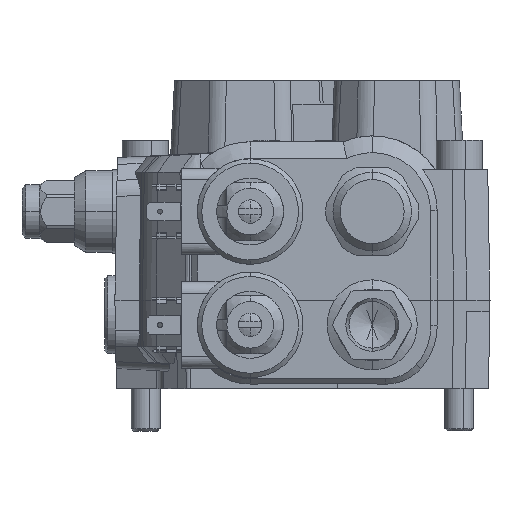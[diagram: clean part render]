
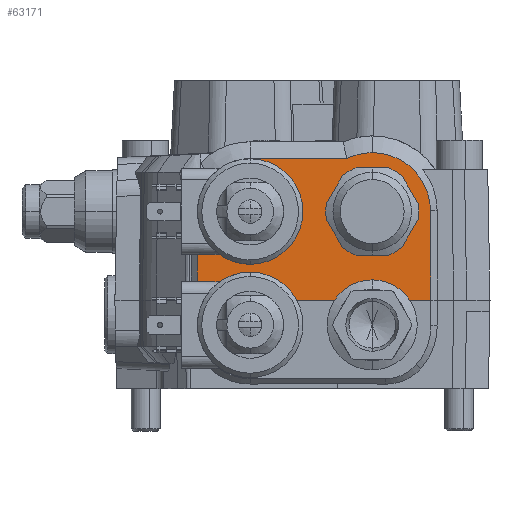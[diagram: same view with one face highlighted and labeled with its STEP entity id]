
A CAD part, left-side view. The second image highlights one B-rep face of the part: STEP entity #63171.
In plain terms, the highlighted planar face has unit normal (-1, 0, 0.012).
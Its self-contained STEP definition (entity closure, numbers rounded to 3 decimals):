
#832 =( BOUNDED_CURVE ( )  B_SPLINE_CURVE ( 3, ( #36646, #5900, #76017, #68797 ),
 .UNSPECIFIED., .F., .F. ) 
 B_SPLINE_CURVE_WITH_KNOTS ( ( 4, 4 ),
 ( 0., 1.566 ),
 .UNSPECIFIED. ) 
 CURVE ( )  GEOMETRIC_REPRESENTATION_ITEM ( )  RATIONAL_B_SPLINE_CURVE ( ( 1., 0.806, 0.806, 1. ) ) 
 REPRESENTATION_ITEM ( '' )  );
#2744 = VERTEX_POINT ( 'NONE', #54955 ) ;
#4393 = CARTESIAN_POINT ( 'NONE',  ( -70.48, -12., 50.77 ) ) ;
#4930 = EDGE_CURVE ( 'NONE', #2744, #98754, #58706, .T. ) ;
#5900 = CARTESIAN_POINT ( 'NONE',  ( -70.48, -23.681, 50.77 ) ) ;
#7169 = EDGE_CURVE ( 'NONE', #36740, #50624, #42367, .T. ) ;
#7854 = EDGE_CURVE ( 'NONE', #59520, #57468, #832, .T. ) ;
#10724 = DIRECTION ( 'NONE',  ( 0., -1., 0. ) ) ;
#11211 = EDGE_CURVE ( 'NONE', #36740, #69262, #83949, .T. ) ;
#17808 = DIRECTION ( 'NONE',  ( 0.012, -0.005, 1. ) ) ;
#19142 = DIRECTION ( 'NONE',  ( -0.012, -0.005, -1. ) ) ;
#20038 = CARTESIAN_POINT ( 'NONE',  ( -70.504, 0., 48.746 ) ) ;
#20102 = DIRECTION ( 'NONE',  ( 0.012, 0., 1. ) ) ;
#20921 = VECTOR ( 'NONE', #10724, 1000. ) ;
#26667 = CARTESIAN_POINT ( 'NONE',  ( -70.504, 30., 48.746 ) ) ;
#29568 = ORIENTED_EDGE ( 'NONE', *, *, #60174, .F. ) ;
#34330 = CARTESIAN_POINT ( 'NONE',  ( -70.595, 47.969, 41.33 ) ) ;
#36646 = CARTESIAN_POINT ( 'NONE',  ( -70.48, -12., 50.77 ) ) ;
#36740 = VERTEX_POINT ( 'NONE', #78906 ) ;
#41028 = CARTESIAN_POINT ( 'NONE',  ( -70.724, 48.024, 30.815 ) ) ;
#41268 = CARTESIAN_POINT ( 'NONE',  ( -70.724, 48.024, 30.815 ) ) ;
#42367 = LINE ( 'NONE', #87591, #57227 ) ;
#42858 = ORIENTED_EDGE ( 'NONE', *, *, #7169, .F. ) ;
#43633 = PLANE ( 'NONE',  #100977 ) ;
#45028 =( BOUNDED_CURVE ( )  B_SPLINE_CURVE ( 3, ( #41268, #34330, #66124, #26667 ),
 .UNSPECIFIED., .F., .T. ) 
 B_SPLINE_CURVE_WITH_KNOTS ( ( 4, 4 ),
 ( 4.718, 6.283 ),
 .UNSPECIFIED. ) 
 CURVE ( )  GEOMETRIC_REPRESENTATION_ITEM ( )  RATIONAL_B_SPLINE_CURVE ( ( 1., 0.806, 0.806, 1. ) ) 
 REPRESENTATION_ITEM ( '' )  );
#47160 = ORIENTED_EDGE ( 'NONE', *, *, #68188, .F. ) ;
#50059 =( BOUNDED_CURVE ( )  B_SPLINE_CURVE ( 3, ( #53886, #52864, #94563, #93897 ),
 .UNSPECIFIED., .F., .F. ) 
 B_SPLINE_CURVE_WITH_KNOTS ( ( 4, 4 ),
 ( 5.83, 6.283 ),
 .UNSPECIFIED. ) 
 CURVE ( )  GEOMETRIC_REPRESENTATION_ITEM ( )  RATIONAL_B_SPLINE_CURVE ( ( 1., 0.983, 0.983, 1. ) ) 
 REPRESENTATION_ITEM ( '' )  );
#50075 = VECTOR ( 'NONE', #52563, 1000. ) ;
#50624 = VERTEX_POINT ( 'NONE', #41028 ) ;
#52350 = CARTESIAN_POINT ( 'NONE',  ( -71.098, -32.184, 0.168 ) ) ;
#52563 = DIRECTION ( 'NONE',  ( 0., -1., 0. ) ) ;
#52864 = CARTESIAN_POINT ( 'NONE',  ( -70.488, -5.971, 50.084 ) ) ;
#53886 = CARTESIAN_POINT ( 'NONE',  ( -70.504, -3.226, 48.746 ) ) ;
#54955 = CARTESIAN_POINT ( 'NONE',  ( -70.504, 30., 48.746 ) ) ;
#57227 = VECTOR ( 'NONE', #17808, 1000. ) ;
#57468 = VERTEX_POINT ( 'NONE', #94182 ) ;
#58706 = LINE ( 'NONE', #20038, #50075 ) ;
#59040 = CARTESIAN_POINT ( 'NONE',  ( -70.504, -3.226, 48.746 ) ) ;
#59520 = VERTEX_POINT ( 'NONE', #4393 ) ;
#59866 = DIRECTION ( 'NONE',  ( -1., 0., 0.012 ) ) ;
#60174 = EDGE_CURVE ( 'NONE', #50624, #2744, #45028, .T. ) ;
#62405 = ORIENTED_EDGE ( 'NONE', *, *, #69990, .F. ) ;
#63171 = ADVANCED_FACE ( 'NONE', ( #93498 ), #43633, .T. ) ;
#64309 = ORIENTED_EDGE ( 'NONE', *, *, #11211, .T. ) ;
#66124 = CARTESIAN_POINT ( 'NONE',  ( -70.504, 40.514, 48.746 ) ) ;
#66375 = CARTESIAN_POINT ( 'NONE',  ( -71.1, 0., 0. ) ) ;
#67262 = EDGE_LOOP ( 'NONE', ( #42858, #64309, #62405, #73588, #47160, #77286, #29568 ) ) ;
#68188 = EDGE_CURVE ( 'NONE', #98754, #59520, #50059, .T. ) ;
#68797 = CARTESIAN_POINT ( 'NONE',  ( -70.723, -32.024, 30.85 ) ) ;
#69262 = VERTEX_POINT ( 'NONE', #78326 ) ;
#69990 = EDGE_CURVE ( 'NONE', #57468, #69262, #93771, .T. ) ;
#73588 = ORIENTED_EDGE ( 'NONE', *, *, #7854, .F. ) ;
#76017 = CARTESIAN_POINT ( 'NONE',  ( -70.58, -31.963, 42.531 ) ) ;
#77286 = ORIENTED_EDGE ( 'NONE', *, *, #4930, .F. ) ;
#78326 = CARTESIAN_POINT ( 'NONE',  ( -71.1, -32.185, 0. ) ) ;
#78906 = CARTESIAN_POINT ( 'NONE',  ( -71.1, 48.185, 0. ) ) ;
#83317 = CARTESIAN_POINT ( 'NONE',  ( -71.1, 0., 0. ) ) ;
#83949 = LINE ( 'NONE', #66375, #20921 ) ;
#86276 = VECTOR ( 'NONE', #19142, 1000. ) ;
#87591 = CARTESIAN_POINT ( 'NONE',  ( -71.097, 48.184, 0.252 ) ) ;
#93498 = FACE_OUTER_BOUND ( 'NONE', #67262, .T. ) ;
#93771 = LINE ( 'NONE', #52350, #86276 ) ;
#93897 = CARTESIAN_POINT ( 'NONE',  ( -70.48, -12., 50.77 ) ) ;
#94182 = CARTESIAN_POINT ( 'NONE',  ( -70.723, -32.024, 30.85 ) ) ;
#94563 = CARTESIAN_POINT ( 'NONE',  ( -70.48, -8.946, 50.77 ) ) ;
#98754 = VERTEX_POINT ( 'NONE', #59040 ) ;
#100977 = AXIS2_PLACEMENT_3D ( 'NONE', #83317, #59866, #20102 ) ;
